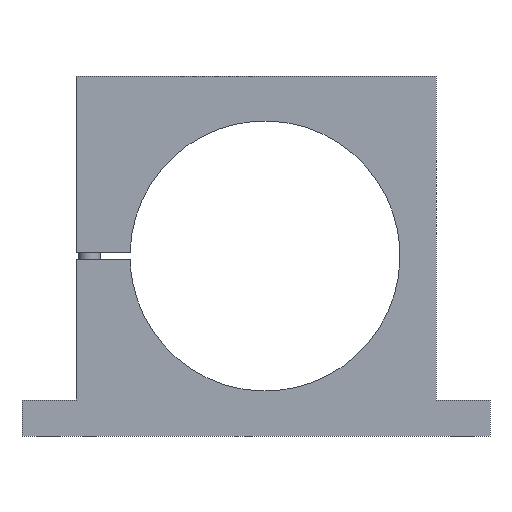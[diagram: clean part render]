
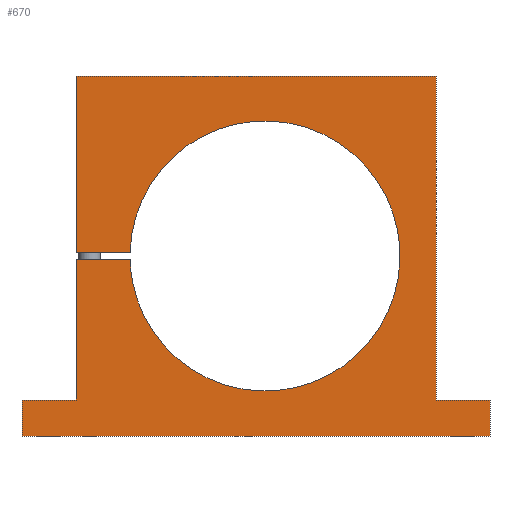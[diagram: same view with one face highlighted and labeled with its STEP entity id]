
A CAD part, front view. The second image highlights one B-rep face of the part: STEP entity #670.
In plain terms, the highlighted planar face has unit normal (0, -1, 0).
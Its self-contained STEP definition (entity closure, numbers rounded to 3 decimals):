
#329=CARTESIAN_POINT('Vertex',(-105.,0.,100.)) ;
#334=CARTESIAN_POINT('Line Origine',(-5.,0.,100.)) ;
#338=CARTESIAN_POINT('Vertex',(95.,0.,100.)) ;
#514=CARTESIAN_POINT('Line Origine',(95.,0.,10.)) ;
#518=CARTESIAN_POINT('Vertex',(95.,0.,-80.)) ;
#533=CARTESIAN_POINT('Axis2P3D Location',(0.,0.,0.)) ;
#539=CARTESIAN_POINT('Control Point',(-74.973,0.,2.)) ;
#540=CARTESIAN_POINT('Control Point',(-74.792,0.,8.786)) ;
#541=CARTESIAN_POINT('Control Point',(-73.844,0.,15.551)) ;
#542=CARTESIAN_POINT('Control Point',(-72.13,0.,22.18)) ;
#543=CARTESIAN_POINT('Control Point',(-67.233,0.,34.935)) ;
#544=CARTESIAN_POINT('Control Point',(-59.611,0.,46.274)) ;
#545=CARTESIAN_POINT('Control Point',(-55.171,0.,51.487)) ;
#546=CARTESIAN_POINT('Control Point',(-45.189,0.,60.817)) ;
#547=CARTESIAN_POINT('Control Point',(-33.376,0.,67.681)) ;
#548=CARTESIAN_POINT('Control Point',(-27.104,0.,70.428)) ;
#549=CARTESIAN_POINT('Control Point',(-14.048,0.,74.454)) ;
#550=CARTESIAN_POINT('Control Point',(-0.422,0.,75.462)) ;
#551=CARTESIAN_POINT('Control Point',(6.42,0.,75.19)) ;
#552=CARTESIAN_POINT('Control Point',(19.922,0.,73.102)) ;
#553=CARTESIAN_POINT('Control Point',(32.617,0.,68.05)) ;
#554=CARTESIAN_POINT('Control Point',(38.651,0.,64.814)) ;
#555=CARTESIAN_POINT('Control Point',(49.881,0.,57.032)) ;
#556=CARTESIAN_POINT('Control Point',(59.089,0.,46.938)) ;
#557=CARTESIAN_POINT('Control Point',(63.1,0.,41.389)) ;
#558=CARTESIAN_POINT('Control Point',(69.603,0.,29.825)) ;
#559=CARTESIAN_POINT('Control Point',(73.438,0.,17.135)) ;
#560=CARTESIAN_POINT('Control Point',(74.633,0.,10.803)) ;
#561=CARTESIAN_POINT('Control Point',(75.144,0.,4.392)) ;
#562=CARTESIAN_POINT('Control Point',(74.973,0.,-2.)) ;
#563=CARTESIAN_POINT('Vertex',(74.973,0.,-2.)) ;
#565=CARTESIAN_POINT('Vertex',(-74.973,0.,2.)) ;
#569=CARTESIAN_POINT('Control Point',(74.973,0.,-2.)) ;
#570=CARTESIAN_POINT('Control Point',(74.792,0.,-8.786)) ;
#571=CARTESIAN_POINT('Control Point',(73.844,0.,-15.551)) ;
#572=CARTESIAN_POINT('Control Point',(72.13,0.,-22.18)) ;
#573=CARTESIAN_POINT('Control Point',(67.233,0.,-34.935)) ;
#574=CARTESIAN_POINT('Control Point',(59.61,0.,-46.274)) ;
#575=CARTESIAN_POINT('Control Point',(55.171,0.,-51.487)) ;
#576=CARTESIAN_POINT('Control Point',(45.189,0.,-60.817)) ;
#577=CARTESIAN_POINT('Control Point',(33.376,0.,-67.681)) ;
#578=CARTESIAN_POINT('Control Point',(27.104,0.,-70.428)) ;
#579=CARTESIAN_POINT('Control Point',(14.048,0.,-74.454)) ;
#580=CARTESIAN_POINT('Control Point',(0.422,0.,-75.462)) ;
#581=CARTESIAN_POINT('Control Point',(-6.42,0.,-75.19)) ;
#582=CARTESIAN_POINT('Control Point',(-19.922,0.,-73.102)) ;
#583=CARTESIAN_POINT('Control Point',(-32.617,0.,-68.05)) ;
#584=CARTESIAN_POINT('Control Point',(-38.651,0.,-64.814)) ;
#585=CARTESIAN_POINT('Control Point',(-49.881,0.,-57.032)) ;
#586=CARTESIAN_POINT('Control Point',(-59.089,0.,-46.938)) ;
#587=CARTESIAN_POINT('Control Point',(-63.1,0.,-41.389)) ;
#588=CARTESIAN_POINT('Control Point',(-69.209,0.,-30.527)) ;
#589=CARTESIAN_POINT('Control Point',(-72.963,0.,-18.671)) ;
#590=CARTESIAN_POINT('Control Point',(-74.153,0.,-13.171)) ;
#591=CARTESIAN_POINT('Control Point',(-74.824,0.,-7.593)) ;
#592=CARTESIAN_POINT('Control Point',(-74.973,0.,-2.)) ;
#593=CARTESIAN_POINT('Vertex',(-74.973,0.,-2.)) ;
#596=CARTESIAN_POINT('Line Origine',(-89.987,0.,-2.)) ;
#600=CARTESIAN_POINT('Vertex',(-105.,0.,-2.)) ;
#603=CARTESIAN_POINT('Line Origine',(-105.,0.,-41.)) ;
#607=CARTESIAN_POINT('Vertex',(-105.,0.,-80.)) ;
#610=CARTESIAN_POINT('Line Origine',(-120.,0.,-80.)) ;
#614=CARTESIAN_POINT('Vertex',(-135.,0.,-80.)) ;
#617=CARTESIAN_POINT('Line Origine',(-135.,0.,-90.)) ;
#621=CARTESIAN_POINT('Vertex',(-135.,0.,-100.)) ;
#624=CARTESIAN_POINT('Line Origine',(-5.,0.,-100.)) ;
#628=CARTESIAN_POINT('Vertex',(125.,0.,-100.)) ;
#631=CARTESIAN_POINT('Line Origine',(125.,0.,-90.)) ;
#635=CARTESIAN_POINT('Vertex',(125.,0.,-80.)) ;
#638=CARTESIAN_POINT('Line Origine',(110.,0.,-80.)) ;
#643=CARTESIAN_POINT('Line Origine',(-105.,0.,51.)) ;
#647=CARTESIAN_POINT('Vertex',(-105.,0.,2.)) ;
#650=CARTESIAN_POINT('Line Origine',(-89.987,0.,2.)) ;
#335=DIRECTION('Vector Direction',(-1.,0.,0.)) ;
#515=DIRECTION('Vector Direction',(0.,0.,1.)) ;
#534=DIRECTION('Axis2P3D Direction',(0.,1.,0.)) ;
#535=DIRECTION('Axis2P3D XDirection',(-1.,0.,0.)) ;
#597=DIRECTION('Vector Direction',(1.,0.,0.)) ;
#604=DIRECTION('Vector Direction',(0.,0.,1.)) ;
#611=DIRECTION('Vector Direction',(1.,0.,0.)) ;
#618=DIRECTION('Vector Direction',(0.,0.,1.)) ;
#625=DIRECTION('Vector Direction',(-1.,0.,0.)) ;
#632=DIRECTION('Vector Direction',(0.,0.,1.)) ;
#639=DIRECTION('Vector Direction',(-1.,0.,0.)) ;
#644=DIRECTION('Vector Direction',(0.,0.,1.)) ;
#651=DIRECTION('Vector Direction',(-1.,0.,0.)) ;
#536=AXIS2_PLACEMENT_3D('Plane Axis2P3D',#533,#534,#535) ;
#656=ORIENTED_EDGE('',*,*,#567,.F.) ;
#657=ORIENTED_EDGE('',*,*,#595,.F.) ;
#658=ORIENTED_EDGE('',*,*,#602,.F.) ;
#659=ORIENTED_EDGE('',*,*,#609,.F.) ;
#660=ORIENTED_EDGE('',*,*,#616,.F.) ;
#661=ORIENTED_EDGE('',*,*,#623,.F.) ;
#662=ORIENTED_EDGE('',*,*,#630,.F.) ;
#663=ORIENTED_EDGE('',*,*,#637,.F.) ;
#664=ORIENTED_EDGE('',*,*,#642,.F.) ;
#665=ORIENTED_EDGE('',*,*,#520,.F.) ;
#666=ORIENTED_EDGE('',*,*,#340,.F.) ;
#667=ORIENTED_EDGE('',*,*,#649,.F.) ;
#668=ORIENTED_EDGE('',*,*,#654,.F.) ;
#336=VECTOR('Line Direction',#335,1.) ;
#516=VECTOR('Line Direction',#515,1.) ;
#598=VECTOR('Line Direction',#597,1.) ;
#605=VECTOR('Line Direction',#604,1.) ;
#612=VECTOR('Line Direction',#611,1.) ;
#619=VECTOR('Line Direction',#618,1.) ;
#626=VECTOR('Line Direction',#625,1.) ;
#633=VECTOR('Line Direction',#632,1.) ;
#640=VECTOR('Line Direction',#639,1.) ;
#645=VECTOR('Line Direction',#644,1.) ;
#652=VECTOR('Line Direction',#651,1.) ;
#670=ADVANCED_FACE('',(#669),#537,.F.) ;
#538=B_SPLINE_CURVE_WITH_KNOTS('',5,(#539,#540,#541,#542,#543,#544,#545,#546,#547,#548,#549,#550,#551,#552,#553,#554,#555,#556,#557,#558,#559,#560,#561,#562),.UNSPECIFIED.,.F.,.U.,(6,3,3,3,3,3,3,6),(0.,48.1,96.2,144.3,192.401,240.501,288.601,333.912),.UNSPECIFIED.) ;
#568=B_SPLINE_CURVE_WITH_KNOTS('',5,(#569,#570,#571,#572,#573,#574,#575,#576,#577,#578,#579,#580,#581,#582,#583,#584,#585,#586,#587,#588,#589,#590,#591,#592),.UNSPECIFIED.,.F.,.U.,(6,3,3,3,3,3,3,6),(0.,48.096,96.193,144.289,192.386,240.482,288.579,328.218),.UNSPECIFIED.) ;
#340=EDGE_CURVE('',#330,#339,#337,.F.) ;
#520=EDGE_CURVE('',#339,#519,#517,.F.) ;
#567=EDGE_CURVE('',#564,#566,#538,.F.) ;
#595=EDGE_CURVE('',#594,#564,#568,.F.) ;
#602=EDGE_CURVE('',#601,#594,#599,.T.) ;
#609=EDGE_CURVE('',#608,#601,#606,.T.) ;
#616=EDGE_CURVE('',#615,#608,#613,.T.) ;
#623=EDGE_CURVE('',#622,#615,#620,.T.) ;
#630=EDGE_CURVE('',#629,#622,#627,.T.) ;
#637=EDGE_CURVE('',#636,#629,#634,.F.) ;
#642=EDGE_CURVE('',#519,#636,#641,.F.) ;
#649=EDGE_CURVE('',#648,#330,#646,.T.) ;
#654=EDGE_CURVE('',#566,#648,#653,.T.) ;
#655=EDGE_LOOP('',(#656,#657,#658,#659,#660,#661,#662,#663,#664,#665,#666,#667,#668)) ;
#669=FACE_OUTER_BOUND('',#655,.T.) ;
#337=LINE('Line',#334,#336) ;
#517=LINE('Line',#514,#516) ;
#599=LINE('Line',#596,#598) ;
#606=LINE('Line',#603,#605) ;
#613=LINE('Line',#610,#612) ;
#620=LINE('Line',#617,#619) ;
#627=LINE('Line',#624,#626) ;
#634=LINE('Line',#631,#633) ;
#641=LINE('Line',#638,#640) ;
#646=LINE('Line',#643,#645) ;
#653=LINE('Line',#650,#652) ;
#537=PLANE('Plane',#536) ;
#330=VERTEX_POINT('',#329) ;
#339=VERTEX_POINT('',#338) ;
#519=VERTEX_POINT('',#518) ;
#564=VERTEX_POINT('',#563) ;
#566=VERTEX_POINT('',#565) ;
#594=VERTEX_POINT('',#593) ;
#601=VERTEX_POINT('',#600) ;
#608=VERTEX_POINT('',#607) ;
#615=VERTEX_POINT('',#614) ;
#622=VERTEX_POINT('',#621) ;
#629=VERTEX_POINT('',#628) ;
#636=VERTEX_POINT('',#635) ;
#648=VERTEX_POINT('',#647) ;
